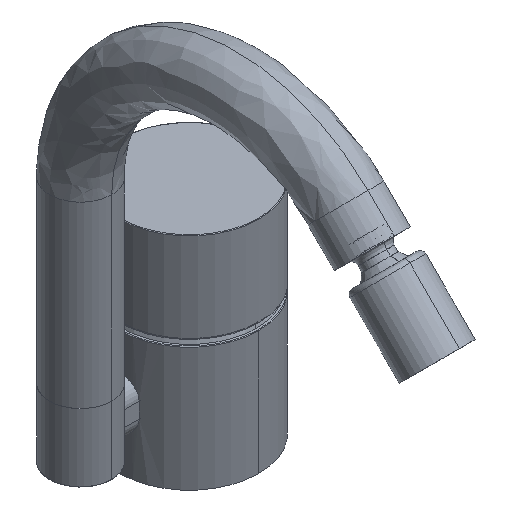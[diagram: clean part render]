
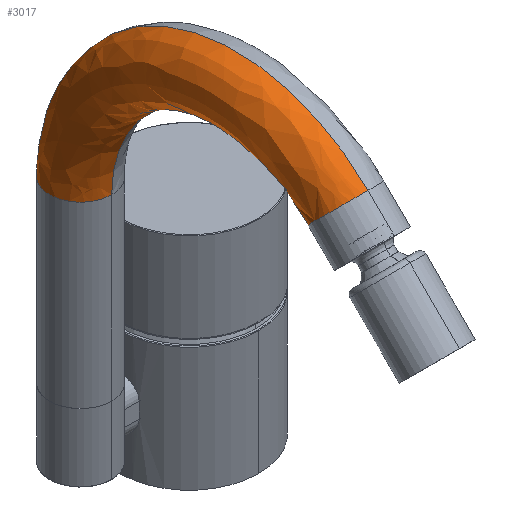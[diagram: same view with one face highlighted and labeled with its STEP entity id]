
A CAD part, isometric view. The second image highlights one B-rep face of the part: STEP entity #3017.
In plain terms, the highlighted free-form (B-spline) face has degree [2, 2] with [5, 5] control points.
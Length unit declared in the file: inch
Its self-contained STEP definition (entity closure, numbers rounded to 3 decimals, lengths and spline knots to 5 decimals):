
#2909=CARTESIAN_POINT('',(-1.77165,0.,3.50394));
#2910=VERTEX_POINT('',#2909);
#2911=CARTESIAN_POINT('',(-1.37795,0.3937,3.50394));
#2912=VERTEX_POINT('',#2911);
#2913=CARTESIAN_POINT('',(-1.37795,0.,3.50394));
#2914=DIRECTION('',(0.0,0.,-1.0));
#2915=DIRECTION('',(-1.0,0.0,0.0));
#2916=AXIS2_PLACEMENT_3D('',#2913,#2914,#2915);
#2917=CIRCLE('',#2916,0.3937);
#2918=EDGE_CURVE('',#2910,#2912,#2917,.T.);
#2937=CARTESIAN_POINT('',(-1.37795,-0.3937,3.50394));
#2938=VERTEX_POINT('',#2937);
#2945=CARTESIAN_POINT('',(-1.37795,0.,3.50394));
#2946=DIRECTION('',(0.0,0.,-1.0));
#2947=DIRECTION('',(0.0,-1.0,0.));
#2948=AXIS2_PLACEMENT_3D('',#2945,#2946,#2947);
#2949=CIRCLE('',#2948,0.3937);
#2950=EDGE_CURVE('',#2938,#2910,#2949,.T.);
#2955=CARTESIAN_POINT('',(-1.37795,-3.08206,4.61749));
#2956=CARTESIAN_POINT('',(-1.77165,-3.08206,4.61749));
#2957=CARTESIAN_POINT('',(-1.77165,-3.36045,4.89588));
#2958=CARTESIAN_POINT('',(-1.77165,-3.63884,5.17427));
#2959=CARTESIAN_POINT('',(-1.37795,-3.63884,5.17427));
#2960=CARTESIAN_POINT('',(-1.37795,-2.62081,5.07874));
#2961=CARTESIAN_POINT('',(-1.77165,-2.62081,5.07874));
#2962=CARTESIAN_POINT('',(-1.77165,-2.78389,5.47244));
#2963=CARTESIAN_POINT('',(-1.77165,-2.94696,5.86614));
#2964=CARTESIAN_POINT('',(-1.37795,-2.94696,5.86614));
#2965=CARTESIAN_POINT('',(-1.37795,-1.9685,5.07874));
#2966=CARTESIAN_POINT('',(-1.77165,-1.9685,5.07874));
#2967=CARTESIAN_POINT('',(-1.77165,-1.9685,5.47244));
#2968=CARTESIAN_POINT('',(-1.77165,-1.9685,5.86614));
#2969=CARTESIAN_POINT('',(-1.37795,-1.9685,5.86614));
#2970=CARTESIAN_POINT('',(-1.37795,-0.3937,5.07874));
#2971=CARTESIAN_POINT('',(-1.77165,-0.3937,5.07874));
#2972=CARTESIAN_POINT('',(-1.77165,0.,5.47244));
#2973=CARTESIAN_POINT('',(-1.77165,0.3937,5.86614));
#2974=CARTESIAN_POINT('',(-1.37795,0.3937,5.86614));
#2975=CARTESIAN_POINT('',(-1.37795,-0.3937,3.50394));
#2976=CARTESIAN_POINT('',(-1.77165,-0.3937,3.50394));
#2977=CARTESIAN_POINT('',(-1.77165,0.,3.50394));
#2978=CARTESIAN_POINT('',(-1.77165,0.3937,3.50394));
#2979=CARTESIAN_POINT('',(-1.37795,0.3937,3.50394));
#2987=(BOUNDED_SURFACE()B_SPLINE_SURFACE(2,2,((#2955,#2960,#2965,#2970,#2975),(#2956,#2961,#2966,#2971,#2976),(#2957,#2962,#2967,#2972,#2977),(#2958,#2963,#2968,#2973,#2978),(#2959,#2964,#2969,#2974,#2979)),.UNSPECIFIED.,.F.,.F.,.U.)B_SPLINE_SURFACE_WITH_KNOTS((3,2,3),(3,2,3),(0.5,0.75,1.),(0.125,0.25,0.5),.UNSPECIFIED.)GEOMETRIC_REPRESENTATION_ITEM()RATIONAL_B_SPLINE_SURFACE(((0.854,0.854,1.,0.707,1.),(0.604,0.604,0.707,0.5,0.707),(0.854,0.854,1.0,0.707,1.),(0.604,0.604,0.707,0.5,0.707),(0.854,0.854,1.,0.707,1.)))REPRESENTATION_ITEM('')SURFACE());
#2988=ORIENTED_EDGE('',*,*,#2918,.F.);
#2989=ORIENTED_EDGE('',*,*,#2950,.F.);
#2990=CARTESIAN_POINT('',(-1.37795,-3.08206,4.61749));
#2991=VERTEX_POINT('',#2990);
#2992=CARTESIAN_POINT('',(-1.37795,-1.9685,3.50394));
#2993=DIRECTION('',(1.0,0.0,0.0));
#2994=DIRECTION('',(0.0,1.0,0.));
#2995=AXIS2_PLACEMENT_3D('',#2992,#2993,#2994);
#2996=CIRCLE('',#2995,1.5748);
#2997=EDGE_CURVE('',#2938,#2991,#2996,.T.);
#2998=ORIENTED_EDGE('',*,*,#2997,.T.);
#2999=CARTESIAN_POINT('',(-1.37795,-3.63883,5.17427));
#3000=VERTEX_POINT('',#2999);
#3001=CARTESIAN_POINT('',(-1.37795,-3.36045,4.89588));
#3002=DIRECTION('',(0.0,-0.707,-0.707));
#3003=DIRECTION('',(0.0,-0.707,0.707));
#3004=AXIS2_PLACEMENT_3D('',#3001,#3002,#3003);
#3005=CIRCLE('',#3004,0.3937);
#3006=EDGE_CURVE('',#3000,#2991,#3005,.T.);
#3007=ORIENTED_EDGE('',*,*,#3006,.F.);
#3008=CARTESIAN_POINT('',(-1.37795,-1.9685,3.50394));
#3009=DIRECTION('',(1.0,0.0,0.0));
#3010=DIRECTION('',(0.0,1.0,0.));
#3011=AXIS2_PLACEMENT_3D('',#3008,#3009,#3010);
#3012=CIRCLE('',#3011,2.3622);
#3013=EDGE_CURVE('',#2912,#3000,#3012,.T.);
#3014=ORIENTED_EDGE('',*,*,#3013,.F.);
#3015=EDGE_LOOP('',(#2988,#2989,#2998,#3007,#3014));
#3016=FACE_OUTER_BOUND('',#3015,.T.);
#3017=ADVANCED_FACE('',(#3016),#2987,.T.);
